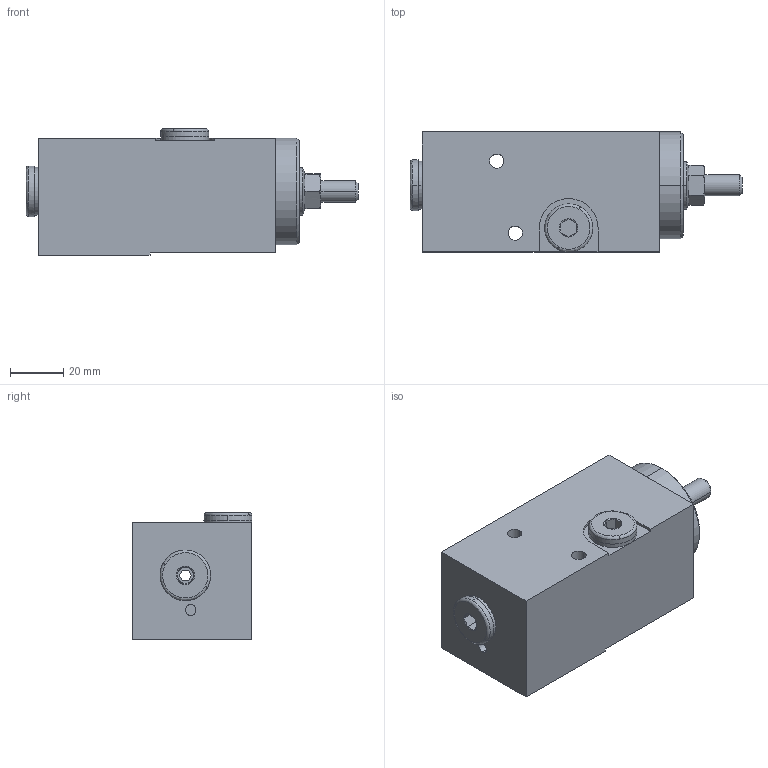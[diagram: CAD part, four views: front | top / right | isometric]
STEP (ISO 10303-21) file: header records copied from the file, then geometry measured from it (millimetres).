
FILE_DESCRIPTION (( 'STEP AP214' ), '1' );
FILE_NAME ('ITRV-001.STEP', '2016-12-22T11:00:54', ( '' ), ( '' ), 'SwSTEP 2.0', 'SolidWorks 2014', '' );
FILE_SCHEMA (( 'AUTOMOTIVE_DESIGN' ));
Length unit declared in the file: millimetre
Products named in the file (1): ITRV-001
Bounding box: 124.5 x 45 x 47.5 mm (x, y, z)
Surface area: 27364.2 mm2 (no closed solid volume)
Topology: 0 solids, 13 shells, 190 faces, 471 edges, 296 vertices
Faces by surface type: plane 69, cone 58, cylinder 41, bspline 22
Entity records: 8184 total; most frequent: CARTESIAN_POINT 1681, DIRECTION 937, ORIENTED_EDGE 862, EDGE_CURVE 471, AXIS2_PLACEMENT_3D 385, VERTEX_POINT 297, EDGE_LOOP 218, CIRCLE 216
